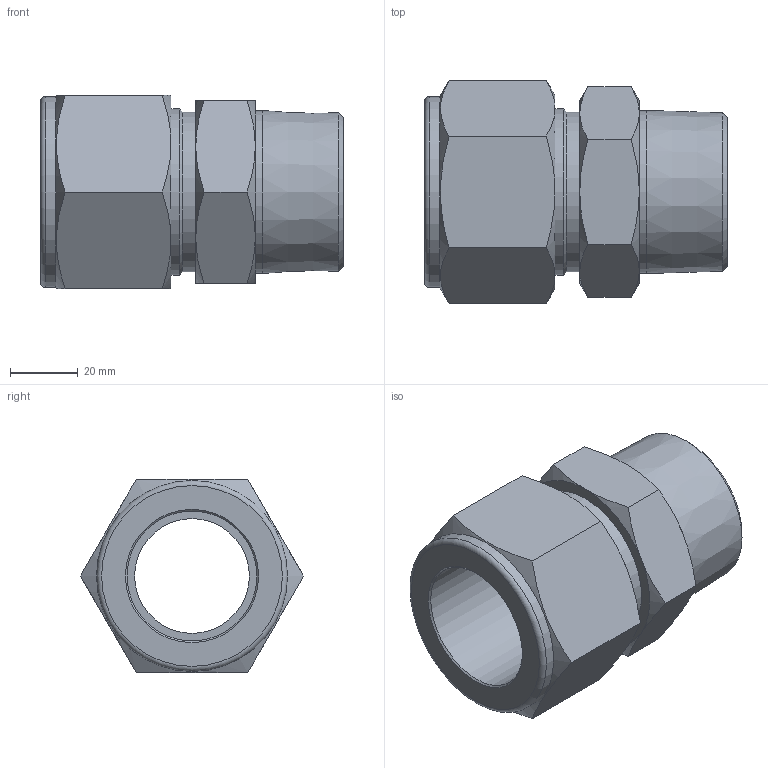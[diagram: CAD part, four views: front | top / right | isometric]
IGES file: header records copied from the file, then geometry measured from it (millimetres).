
Global section: file name: No Iges File Name specified; native system: Autodesk Inventor 2012; preprocessor: AutoDesk Inventor Iges Exporter R2012; author: 硅己绕,,1; organization: 1; date: 20150603.093547; units: millimetre
Bounding box: 89.64 x 65.99 x 57.15 mm (x, y, z)
Volume: 116704.3 mm3; surface area: 30443.3 mm2
Topology: 1 solids, 1 shells, 49 faces, 102 edges, 59 vertices
Faces by surface type: cone 22, plane 18, cylinder 4, revolution 4, torus 1
Full cylindrical faces by diameter (mm): 47.3 x1, 48.26 x1, 49.198 x1, 56.5 x1
